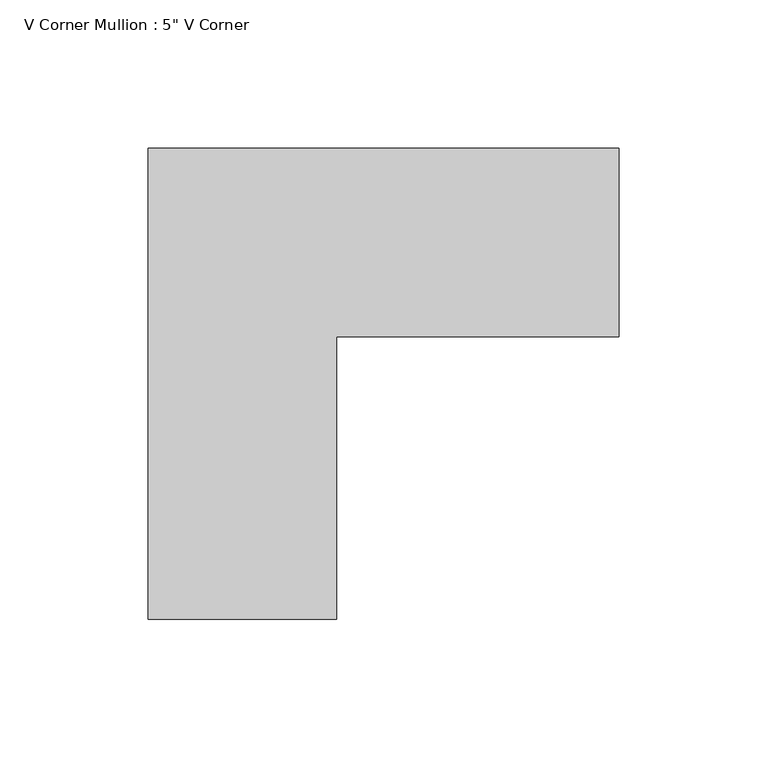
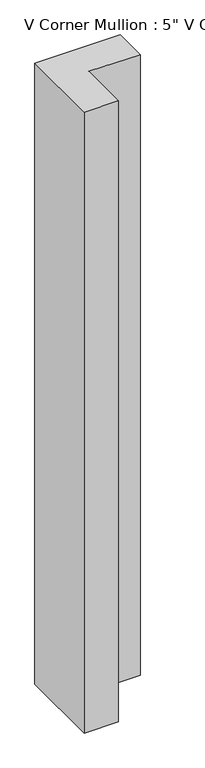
"""IFC4 building model written with IfcOpenShell, lengths in millimetres: member geometry."""

from ifc_helpers import new_model, si_unit, frame, origin, place, context, project, spatial, polyline, outline, extrude, source, transform, mapped, element, save


def member_12374bc9(model_context):
    return source(origin(), model_context, "Body", "SweptSolid", [
        extrude(outline(polyline([(63.5, 31.75), (-31.75, 31.75), (-31.75, -63.5), (-95.25, -63.5), (-95.25, 95.25), (63.5, 95.25), (63.5, 31.75)])), frame((0.0, 0.0, -1219.2), z_axis=(0.0, 0.0, 1.0), x_axis=(1.0, 0.0, 0.0)), (0.0, 0.0, 1.0), 1219.2),
    ])


if __name__ == "__main__":
    model = new_model("IFC4")
    model_context = context("Model", 3, world=origin())
    ifc_project = project(units=[si_unit("LENGTHUNIT", "METRE", prefix="MILLI")], contexts=[model_context])
    site = spatial("IfcSite", under=ifc_project)
    building = spatial("IfcBuilding", under=site)
    placement = place(None, origin())
    member_shape = member_12374bc9(model_context)
    element("IfcMember", 1, ObjectType="V Corner Mullion : 5\" V Corner", at=placement, inside=building, context=model_context, shape_type="MappedRepresentation", body=[
        mapped(member_shape, transform((0.0, 0.0, 0.0), x_axis=(1.0, 0.0, 0.0), y_axis=(0.0, 1.0, 0.0), z_axis=(0.0, 0.0, 1.0))),
    ])
    save(model, "model.ifc")
